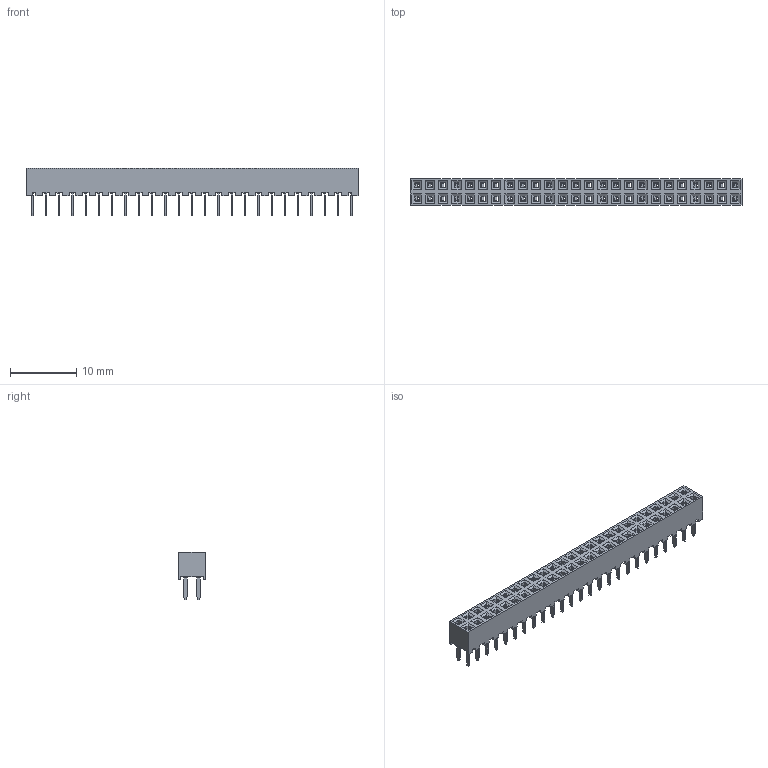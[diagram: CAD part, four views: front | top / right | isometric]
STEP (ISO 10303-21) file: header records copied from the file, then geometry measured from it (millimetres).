
FILE_DESCRIPTION(('Creo Elements/Direct Modeling STEP Export'),'2;1');
FILE_NAME('A3C-50DA-2DSA.stp','2015-10-30T14:29:49',(''),(''),'Creo Elements/Direct Modeling STEP processor for AP214 (Solid Model)','Creo Elements/Direct Modeling 18.1E 22-Nov-2013 (C) Parametric Technology GmbH','');
FILE_SCHEMA(('AUTOMOTIVE_DESIGN { 1 0 10303 214 1 1 1 1 }'));
Length unit declared in the file: millimetre
Products named in the file (1): A3C-50DA-2DSA
Bounding box: 50 x 4 x 7.2 mm (x, y, z)
Volume: 691.4 mm3; surface area: 1522.6 mm2
Topology: 1 solids, 1 shells, 1260 faces, 3624 edges, 2416 vertices
Faces by surface type: plane 1110, cylinder 150
Entity records: 40910 total; most frequent: CARTESIAN_POINT 7301, ORIENTED_EDGE 7248, DIRECTION 6446, EDGE_CURVE 3624, VECTOR 3324, LINE 3324, VERTEX_POINT 2416, AXIS2_PLACEMENT_3D 1561
